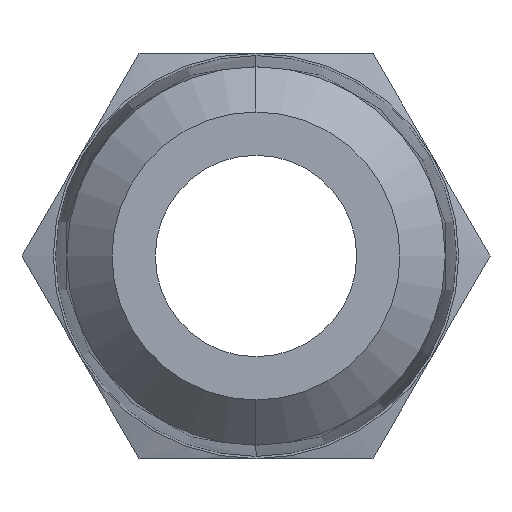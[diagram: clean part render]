
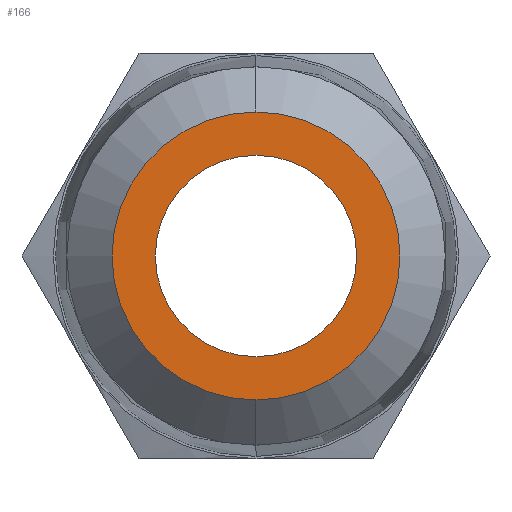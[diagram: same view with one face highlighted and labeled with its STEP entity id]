
A CAD part, left-side view. The second image highlights one B-rep face of the part: STEP entity #166.
In plain terms, the highlighted planar face has unit normal (-1, 0, 0).
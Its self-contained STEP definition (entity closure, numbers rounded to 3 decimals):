
#166 = ADVANCED_FACE ( 'NONE', ( #327, #326 ), #325, .T. ) ;
#167 = ORIENTED_EDGE ( 'NONE', *, *, #168, .T. ) ;
#168 = EDGE_CURVE ( 'NONE', #1141, #1140, #323, .T. ) ;
#169 = ORIENTED_EDGE ( 'NONE', *, *, #1139, .T. ) ;
#170 = EDGE_LOOP ( 'NONE', ( #171, #173 ) ) ;
#171 = ORIENTED_EDGE ( 'NONE', *, *, #172, .F. ) ;
#172 = EDGE_CURVE ( 'NONE', #1249, #1246, #460, .T. ) ;
#173 = ORIENTED_EDGE ( 'NONE', *, *, #1248, .F. ) ;
#315 = CARTESIAN_POINT ( 'NONE',  ( -14., 0., 0. ) ) ;
#316 = DIRECTION ( 'NONE',  ( 0., 0., 1. ) ) ;
#317 = DIRECTION ( 'NONE',  ( -1., 0., 0. ) ) ;
#318 = CARTESIAN_POINT ( 'NONE',  ( -14., 0., 0. ) ) ;
#319 = AXIS2_PLACEMENT_3D ( 'NONE', #318, #317, #316 ) ;
#320 = DIRECTION ( 'NONE',  ( 0., 0., 1. ) ) ;
#321 = DIRECTION ( 'NONE',  ( -1., 0., 0. ) ) ;
#322 = AXIS2_PLACEMENT_3D ( 'NONE', #324, #321, #320 ) ;
#323 = CIRCLE ( 'NONE', #319, 5.077 ) ;
#324 = CARTESIAN_POINT ( 'NONE',  ( -14., 0., 0. ) ) ;
#325 = PLANE ( 'NONE',  #322 ) ;
#326 = FACE_BOUND ( 'NONE', #170, .T. ) ;
#327 = FACE_OUTER_BOUND ( 'NONE', #639, .T. ) ;
#457 = DIRECTION ( 'NONE',  ( 0., 0., 1. ) ) ;
#458 = DIRECTION ( 'NONE',  ( -1., 0., 0. ) ) ;
#459 = AXIS2_PLACEMENT_3D ( 'NONE', #315, #458, #457 ) ;
#460 = CIRCLE ( 'NONE', #459, 3.55 ) ;
#639 = EDGE_LOOP ( 'NONE', ( #167, #169 ) ) ;
#744 = CARTESIAN_POINT ( 'NONE',  ( -14., 0., -5.077 ) ) ;
#745 = CARTESIAN_POINT ( 'NONE',  ( -14., 0., 5.077 ) ) ;
#753 = CARTESIAN_POINT ( 'NONE',  ( -14., 0., 0. ) ) ;
#797 = CIRCLE ( 'NONE', #842, 5.077 ) ;
#798 = DIRECTION ( 'NONE',  ( 0., 0., 1. ) ) ;
#806 = DIRECTION ( 'NONE',  ( -1., 0., 0. ) ) ;
#842 = AXIS2_PLACEMENT_3D ( 'NONE', #753, #806, #798 ) ;
#995 = CARTESIAN_POINT ( 'NONE',  ( -14., 0., -3.55 ) ) ;
#1018 = DIRECTION ( 'NONE',  ( 0., 0., 1. ) ) ;
#1019 = DIRECTION ( 'NONE',  ( -1., 0., 0. ) ) ;
#1020 = CARTESIAN_POINT ( 'NONE',  ( -14., 0., 0. ) ) ;
#1021 = AXIS2_PLACEMENT_3D ( 'NONE', #1020, #1019, #1018 ) ;
#1022 = CIRCLE ( 'NONE', #1021, 3.55 ) ;
#1023 = CARTESIAN_POINT ( 'NONE',  ( -14., 0., 3.55 ) ) ;
#1139 = EDGE_CURVE ( 'NONE', #1140, #1141, #797, .T. ) ;
#1140 = VERTEX_POINT ( 'NONE', #745 ) ;
#1141 = VERTEX_POINT ( 'NONE', #744 ) ;
#1246 = VERTEX_POINT ( 'NONE', #995 ) ;
#1248 = EDGE_CURVE ( 'NONE', #1246, #1249, #1022, .T. ) ;
#1249 = VERTEX_POINT ( 'NONE', #1023 ) ;
